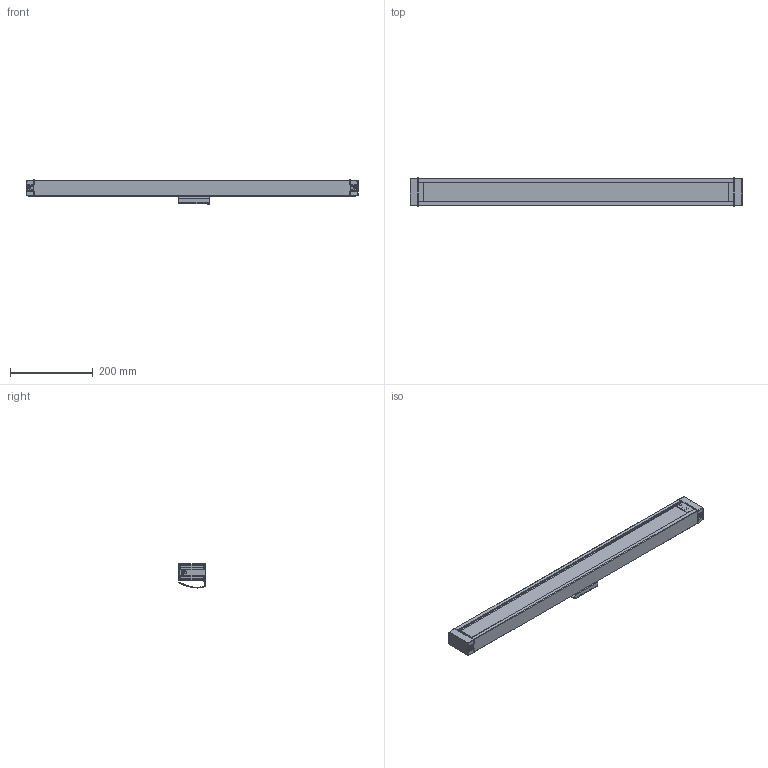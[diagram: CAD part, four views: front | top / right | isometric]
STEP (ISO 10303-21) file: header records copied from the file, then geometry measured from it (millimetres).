
FILE_DESCRIPTION(/* description */ (''),/* implementation_level */ '2;1');
FILE_NAME(/* name */ 'K:\Sales-Custom Engineering\STEP & IGES Files (Generic Reference Files)\Current Files\8482 Gen Ref\8482-30_Shrinkwrap_1.stp',/* time_stamp */ '2018-04-24T12:28:33-04:00',/* author */ ('chochberg'),/* organization */ (''),/* preprocessor_version */ 'ST-DEVELOPER v16.1',/* originating_system */ 'Autodesk Inventor 2016',/* authorisation */ '');
FILE_SCHEMA (('AUTOMOTIVE_DESIGN { 1 0 10303 214 3 1 1 }'));
Length unit declared in the file: inch
Products named in the file (1): 8482-30_Shrinkwrap_1
Bounding box: 800.1 x 67.44 x 57.84 mm (x, y, z)
Volume: 841449 mm3; surface area: 377202 mm2
Topology: 1 solids, 1 shells, 829 faces, 2459 edges, 1606 vertices
Faces by surface type: plane 500, cylinder 155, bspline 138, torus 28, sphere 4, cone 4
Full cylindrical faces by diameter (mm): 4.978 x8, 6.35 x3
Entity records: 30385 total; most frequent: CARTESIAN_POINT 8049, ORIENTED_EDGE 4876, DIRECTION 3851, EDGE_CURVE 2438, LINE 1735, VECTOR 1735, VERTEX_POINT 1602, AXIS2_PLACEMENT_3D 1058
